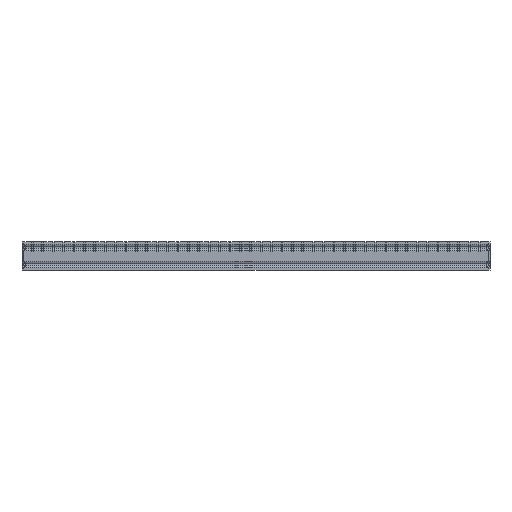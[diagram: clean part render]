
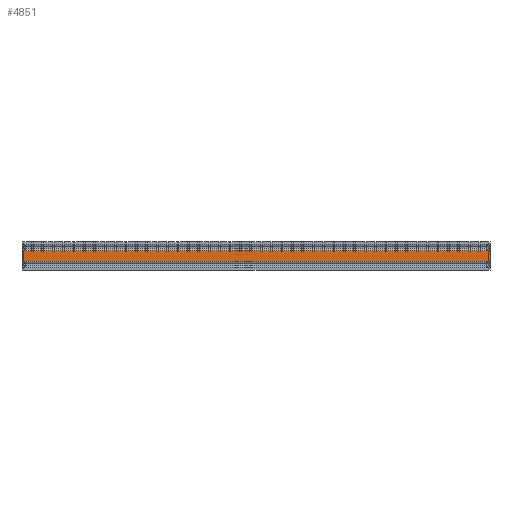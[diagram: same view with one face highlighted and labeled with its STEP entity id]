
A CAD part, front view. The second image highlights one B-rep face of the part: STEP entity #4851.
In plain terms, the highlighted planar face has unit normal (0, -1, 0) as drawn and (0, 0, 1) by its records, which use the part's own axes.
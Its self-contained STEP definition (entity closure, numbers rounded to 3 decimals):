
#525=PLANE('',#5181);
#1133=LINE('',#7816,#1749);
#1134=LINE('',#7820,#1750);
#1135=LINE('',#7822,#1751);
#1136=LINE('',#7824,#1752);
#1749=VECTOR('',#6384,1000.);
#1750=VECTOR('',#6389,1000.);
#1751=VECTOR('',#6390,1000.);
#1752=VECTOR('',#6391,1000.);
#2994=ORIENTED_EDGE('',*,*,#3690,.T.);
#2995=ORIENTED_EDGE('',*,*,#3691,.F.);
#2996=ORIENTED_EDGE('',*,*,#3692,.F.);
#2997=ORIENTED_EDGE('',*,*,#3688,.T.);
#3688=EDGE_CURVE('',#4129,#4128,#1133,.T.);
#3690=EDGE_CURVE('',#4128,#4130,#1134,.T.);
#3691=EDGE_CURVE('',#4131,#4130,#1135,.T.);
#3692=EDGE_CURVE('',#4129,#4131,#1136,.T.);
#4128=VERTEX_POINT('',#7815);
#4129=VERTEX_POINT('',#7817);
#4130=VERTEX_POINT('',#7821);
#4131=VERTEX_POINT('',#7823);
#4387=EDGE_LOOP('',(#2994,#2995,#2996,#2997));
#4611=FACE_BOUND('',#4387,.T.);
#4851=ADVANCED_FACE('',(#4611),#525,.F.);
#5181=AXIS2_PLACEMENT_3D('',#7819,#6387,#6388);
#6384=DIRECTION('',(-1.,0.,0.));
#6387=DIRECTION('',(0.,0.,-1.));
#6388=DIRECTION('',(-1.,0.,0.));
#6389=DIRECTION('',(0.,-1.,0.));
#6390=DIRECTION('',(-1.,0.,0.));
#6391=DIRECTION('',(0.,-1.,0.));
#7815=CARTESIAN_POINT('',(-250.,-9.527,500.));
#7816=CARTESIAN_POINT('',(250.,-9.527,500.));
#7817=CARTESIAN_POINT('',(250.,-9.527,500.));
#7819=CARTESIAN_POINT('',(250.,-9.527,500.));
#7820=CARTESIAN_POINT('',(-250.,-9.527,500.));
#7821=CARTESIAN_POINT('',(-250.,-20.473,500.));
#7822=CARTESIAN_POINT('',(250.,-20.473,500.));
#7823=CARTESIAN_POINT('',(250.,-20.473,500.));
#7824=CARTESIAN_POINT('',(250.,-9.527,500.));
